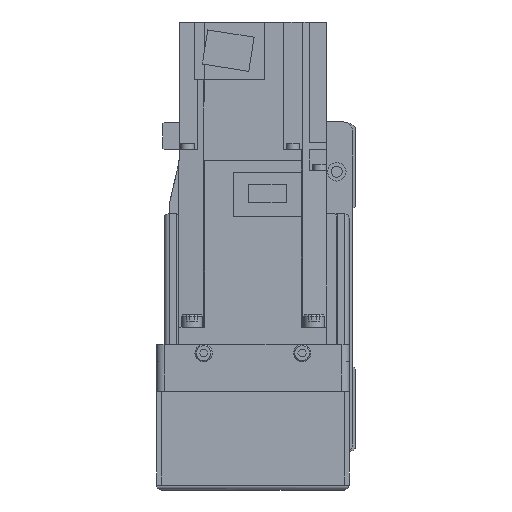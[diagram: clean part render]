
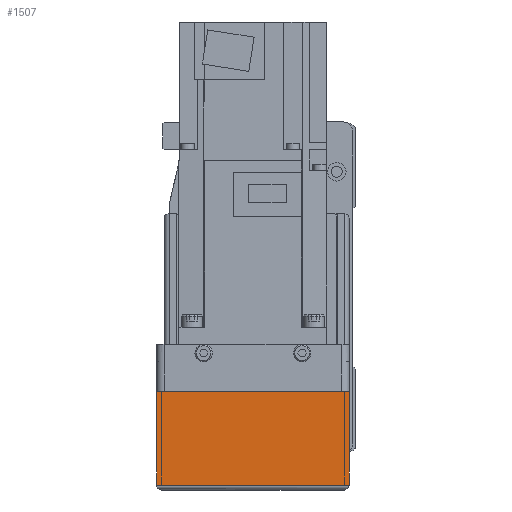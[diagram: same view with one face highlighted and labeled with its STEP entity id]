
A CAD part, left-side view. The second image highlights one B-rep face of the part: STEP entity #1507.
In plain terms, the highlighted planar face has unit normal (-1, 0, 0).
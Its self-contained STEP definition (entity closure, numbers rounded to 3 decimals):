
#1507 = ADVANCED_FACE( '', ( #3753 ), #3754, .F. );
#3753 = FACE_OUTER_BOUND( '', #6936, .T. );
#3754 = PLANE( '', #6937 );
#6936 = EDGE_LOOP( '', ( #11263, #11264, #11265, #11266 ) );
#6937 = AXIS2_PLACEMENT_3D( '', #11267, #11268, #11269 );
#11263 = ORIENTED_EDGE( '', *, *, #19187, .F. );
#11264 = ORIENTED_EDGE( '', *, *, #19188, .F. );
#11265 = ORIENTED_EDGE( '', *, *, #19189, .T. );
#11266 = ORIENTED_EDGE( '', *, *, #19190, .F. );
#11267 = CARTESIAN_POINT( '', ( -158., 36., 7. ) );
#11268 = DIRECTION( '', ( 1., 0., 0. ) );
#11269 = DIRECTION( '', ( 0., 0., -1. ) );
#19187 = EDGE_CURVE( '', #23353, #23354, #23355, .T. );
#19188 = EDGE_CURVE( '', #23356, #23353, #23357, .T. );
#19189 = EDGE_CURVE( '', #23356, #23358, #23359, .T. );
#19190 = EDGE_CURVE( '', #23354, #23358, #23360, .T. );
#23353 = VERTEX_POINT( '', #29346 );
#23354 = VERTEX_POINT( '', #29347 );
#23355 = LINE( '', #29348, #29349 );
#23356 = VERTEX_POINT( '', #29350 );
#23357 = LINE( '', #29351, #29352 );
#23358 = VERTEX_POINT( '', #29353 );
#23359 = LINE( '', #29354, #29355 );
#23360 = LINE( '', #29356, #29357 );
#29346 = CARTESIAN_POINT( '', ( -158., 39., -12.1 ) );
#29347 = CARTESIAN_POINT( '', ( -158., -39., -12.1 ) );
#29348 = CARTESIAN_POINT( '', ( -158., 50., -12.1 ) );
#29349 = VECTOR( '', #35152, 1000. );
#29350 = CARTESIAN_POINT( '', ( -158., 39., -50. ) );
#29351 = CARTESIAN_POINT( '', ( -158., 39., -50. ) );
#29352 = VECTOR( '', #35153, 1000. );
#29353 = CARTESIAN_POINT( '', ( -158., -39., -50. ) );
#29354 = CARTESIAN_POINT( '', ( -158., 40., -50. ) );
#29355 = VECTOR( '', #35154, 1000. );
#29356 = CARTESIAN_POINT( '', ( -158., -39., -12.1 ) );
#29357 = VECTOR( '', #35155, 1000. );
#35152 = DIRECTION( '', ( 0., -1., 0. ) );
#35153 = DIRECTION( '', ( 0., 0., 1. ) );
#35154 = DIRECTION( '', ( 0., -1., 0. ) );
#35155 = DIRECTION( '', ( 0., 0., -1. ) );
